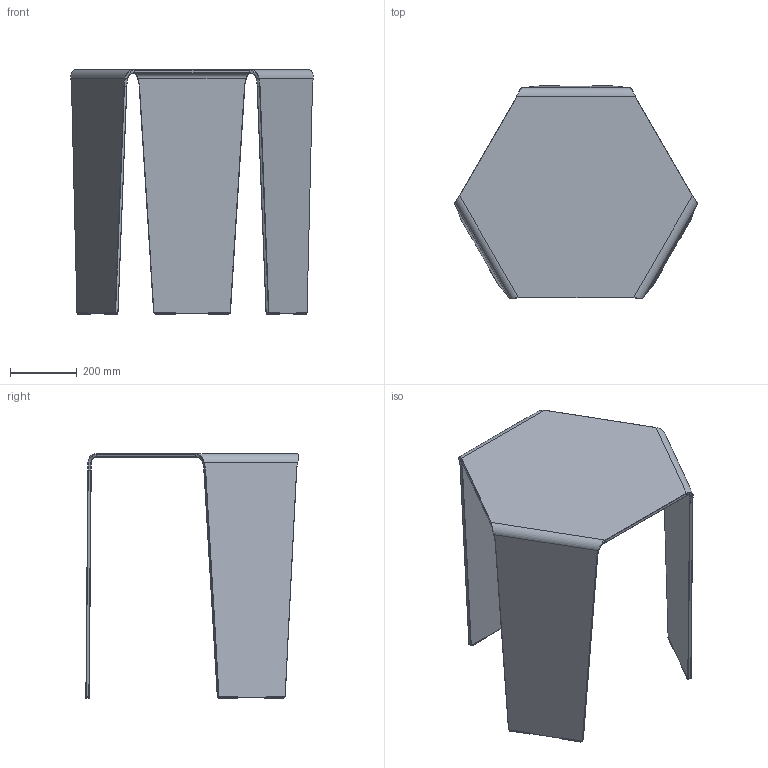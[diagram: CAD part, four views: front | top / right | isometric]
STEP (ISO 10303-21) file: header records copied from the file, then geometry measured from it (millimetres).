
FILE_DESCRIPTION((''),'2;1');
FILE_NAME('C:\AutodeskVault\AreaLavoro\Progetti\SoVeT Italia\2. Tavolini_Coffee tables\3Feet\Web file\3Feet Web\P4690.stp','2012-06-12T17:13:04',('Gianluca'),('So.Ve.T. s.r.l.'),'Autodesk Inventor 2013','Autodesk Inventor 2013','IL PROGETTO E'' DI ESCLUSIVA PROPRIETA'' DELLA SO.VE.T. srl. E'' VIETATA OGNI RIPRODUZIONE TOTALE O PARZIALE E QUALSIASI UTILIZZO NON AUTORIZZATO. ');
FILE_SCHEMA(('AUTOMOTIVE_DESIGN { 1 0 10303 214 1 1 1 1 }'));
Length unit declared in the file: millimetre
Products named in the file (1): P4690 Contorno semplificato
Bounding box: 724.71 x 636.73 x 729.96 mm (x, y, z)
Volume: 9253194.3 mm3; surface area: 1911426.8 mm2
Topology: 1 solids, 1 shells, 260 faces, 684 edges, 414 vertices
Faces by surface type: plane 110, cylinder 66, bspline 60, cone 24
Entity records: 16435 total; most frequent: CARTESIAN_POINT 10083, ORIENTED_EDGE 1368, DIRECTION 1098, EDGE_CURVE 684, VERTEX_POINT 414, VECTOR 408, LINE 408, AXIS2_PLACEMENT_3D 345
